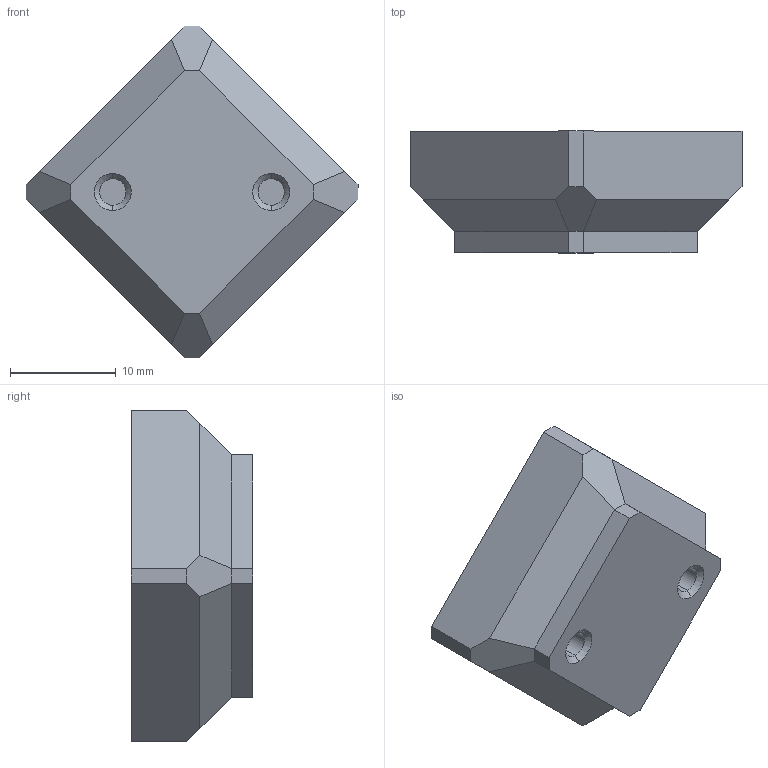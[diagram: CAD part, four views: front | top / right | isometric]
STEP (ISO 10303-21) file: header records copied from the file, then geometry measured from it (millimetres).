
FILE_DESCRIPTION (( 'STEP AP203' ), '1' );
FILE_NAME ('奻裔參忒.STEP', '2024-01-02T07:28:19', ( '' ), ( '' ), 'SwSTEP 2.0', 'SolidWorks 2014', '' );
FILE_SCHEMA (( 'CONFIG_CONTROL_DESIGN' ));
Length unit declared in the file: millimetre
Products named in the file (1): 奻裔參忒
Bounding box: 31.41 x 11.5 x 31.41 mm (x, y, z)
Volume: 4964.4 mm3; surface area: 2129.4 mm2
Topology: 1 solids, 1 shells, 46 faces, 111 edges, 70 vertices
Faces by surface type: plane 38, cone 4, cylinder 4
Entity records: 1388 total; most frequent: CARTESIAN_POINT 228, ORIENTED_EDGE 222, DIRECTION 217, EDGE_CURVE 111, LINE 99, VECTOR 99, VERTEX_POINT 70, AXIS2_PLACEMENT_3D 59
